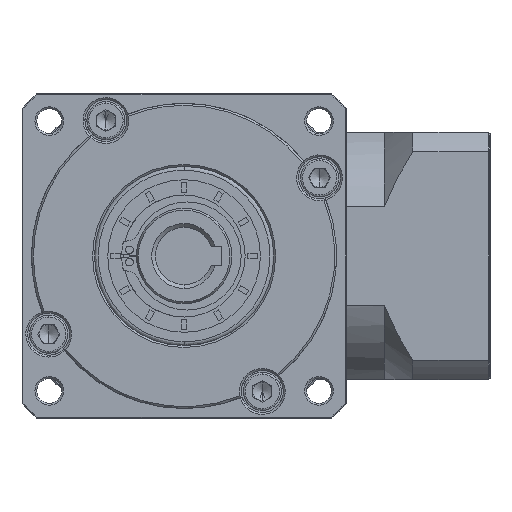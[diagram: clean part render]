
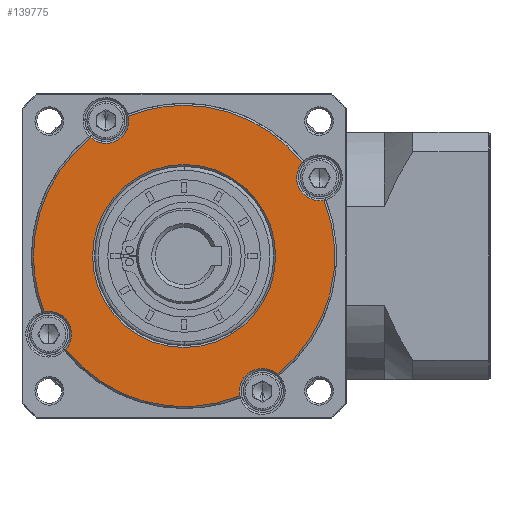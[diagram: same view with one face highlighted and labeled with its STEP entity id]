
A CAD part, left-side view. The second image highlights one B-rep face of the part: STEP entity #139775.
In plain terms, the highlighted planar face has unit normal (-1, 0, 0).
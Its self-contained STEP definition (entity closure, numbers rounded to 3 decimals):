
#591 = AXIS2_PLACEMENT_3D ( 'NONE', #26466, #117792, #39632 ) ;
#3854 = CARTESIAN_POINT ( 'NONE',  ( -117.213, -34.427, -149.592 ) ) ;
#4296 = VERTEX_POINT ( 'NONE', #71923 ) ;
#4793 = CARTESIAN_POINT ( 'NONE',  ( -117.213, -9.957, -118.584 ) ) ;
#5068 = ORIENTED_EDGE ( 'NONE', *, *, #52874, .F. ) ;
#6866 = DIRECTION ( 'NONE',  ( 0., 1., 0. ) ) ;
#7133 = EDGE_CURVE ( 'NONE', #134469, #123421, #17436, .T. ) ;
#8540 = VERTEX_POINT ( 'NONE', #66651 ) ;
#9443 = CARTESIAN_POINT ( 'NONE',  ( -117.213, 14.512, -87.576 ) ) ;
#10791 = DIRECTION ( 'NONE',  ( 1., 0., 0. ) ) ;
#11171 = CIRCLE ( 'NONE', #77204, 24. ) ;
#13105 = CARTESIAN_POINT ( 'NONE',  ( -117.213, -45.464, -98.084 ) ) ;
#17188 = EDGE_LOOP ( 'NONE', ( #5068, #86104, #150924, #57880, #156601, #74011, #28511, #30365, #127586, #75089, #137215, #117496 ) ) ;
#17436 = CIRCLE ( 'NONE', #110412, 39.5 ) ;
#17931 = DIRECTION ( 'NONE',  ( 0., 0., 1. ) ) ;
#19591 = AXIS2_PLACEMENT_3D ( 'NONE', #163270, #85041, #6866 ) ;
#22722 = EDGE_CURVE ( 'NONE', #134469, #155771, #32153, .T. ) ;
#26147 = DIRECTION ( 'NONE',  ( 0., 0., -1. ) ) ;
#26466 = CARTESIAN_POINT ( 'NONE',  ( -117.213, -9.957, -118.584 ) ) ;
#26520 = CIRCLE ( 'NONE', #140951, 6. ) ;
#26860 = CIRCLE ( 'NONE', #36395, 39.5 ) ;
#28511 = ORIENTED_EDGE ( 'NONE', *, *, #65319, .F. ) ;
#28889 = EDGE_CURVE ( 'NONE', #8540, #130323, #11171, .T. ) ;
#28905 = EDGE_CURVE ( 'NONE', #155771, #88898, #80582, .T. ) ;
#30125 = CIRCLE ( 'NONE', #155417, 39.5 ) ;
#30365 = ORIENTED_EDGE ( 'NONE', *, *, #65678, .T. ) ;
#32153 = CIRCLE ( 'NONE', #112228, 6. ) ;
#33256 = VERTEX_POINT ( 'NONE', #163452 ) ;
#36395 = AXIS2_PLACEMENT_3D ( 'NONE', #124261, #46047, #137385 ) ;
#37405 = EDGE_CURVE ( 'NONE', #41304, #88898, #160712, .T. ) ;
#39476 = CARTESIAN_POINT ( 'NONE',  ( -117.213, -9.957, -118.584 ) ) ;
#39632 = DIRECTION ( 'NONE',  ( 0., 0., -1. ) ) ;
#41304 = VERTEX_POINT ( 'NONE', #125038 ) ;
#43097 = CARTESIAN_POINT ( 'NONE',  ( -117.213, 29.543, -118.584 ) ) ;
#46022 = EDGE_CURVE ( 'NONE', #168092, #138603, #30125, .T. ) ;
#46047 = DIRECTION ( 'NONE',  ( 1., 0., 0. ) ) ;
#47246 = DIRECTION ( 'NONE',  ( 1., 0., 0. ) ) ;
#48226 = DIRECTION ( 'NONE',  ( 1., 0., 0. ) ) ;
#48650 = VERTEX_POINT ( 'NONE', #112777 ) ;
#49123 = DIRECTION ( 'NONE',  ( 1., 0., 0. ) ) ;
#52196 = PLANE ( 'NONE',  #591 ) ;
#52593 = DIRECTION ( 'NONE',  ( 0., 0., 1. ) ) ;
#52874 = EDGE_CURVE ( 'NONE', #33256, #41304, #26860, .T. ) ;
#53622 = DIRECTION ( 'NONE',  ( 1., 0., 0. ) ) ;
#54022 = DIRECTION ( 'NONE',  ( 1., 0., 0. ) ) ;
#54686 = CARTESIAN_POINT ( 'NONE',  ( -117.213, -40.965, -94.115 ) ) ;
#54782 = VERTEX_POINT ( 'NONE', #105825 ) ;
#57537 = CARTESIAN_POINT ( 'NONE',  ( -117.213, -9.957, -118.584 ) ) ;
#57880 = ORIENTED_EDGE ( 'NONE', *, *, #46022, .F. ) ;
#58792 = CIRCLE ( 'NONE', #74370, 6. ) ;
#60913 = FACE_OUTER_BOUND ( 'NONE', #17188, .T. ) ;
#64502 = CARTESIAN_POINT ( 'NONE',  ( -117.213, -9.957, -118.584 ) ) ;
#65319 = EDGE_CURVE ( 'NONE', #76666, #54782, #118592, .T. ) ;
#65678 = EDGE_CURVE ( 'NONE', #76666, #123421, #26520, .T. ) ;
#65928 = ORIENTED_EDGE ( 'NONE', *, *, #28889, .T. ) ;
#66651 = CARTESIAN_POINT ( 'NONE',  ( -117.213, 14.043, -118.584 ) ) ;
#67958 = EDGE_CURVE ( 'NONE', #4296, #138603, #139072, .T. ) ;
#69452 = CARTESIAN_POINT ( 'NONE',  ( -117.213, -45.464, -104.084 ) ) ;
#70691 = DIRECTION ( 'NONE',  ( 0., -1., 0. ) ) ;
#71073 = AXIS2_PLACEMENT_3D ( 'NONE', #127297, #49123, #140487 ) ;
#71923 = CARTESIAN_POINT ( 'NONE',  ( -117.213, 10.543, -89.077 ) ) ;
#74011 = ORIENTED_EDGE ( 'NONE', *, *, #90153, .T. ) ;
#74370 = AXIS2_PLACEMENT_3D ( 'NONE', #132158, #54022, #145331 ) ;
#74824 = CARTESIAN_POINT ( 'NONE',  ( -117.213, -24.576, -155.279 ) ) ;
#74941 = CARTESIAN_POINT ( 'NONE',  ( -117.213, -30.457, -154.091 ) ) ;
#75089 = ORIENTED_EDGE ( 'NONE', *, *, #22722, .T. ) ;
#75687 = EDGE_LOOP ( 'NONE', ( #166861, #65928 ) ) ;
#76666 = VERTEX_POINT ( 'NONE', #74824 ) ;
#77204 = AXIS2_PLACEMENT_3D ( 'NONE', #64502, #155827, #77603 ) ;
#77603 = DIRECTION ( 'NONE',  ( 0., -1., 0. ) ) ;
#80582 = CIRCLE ( 'NONE', #94749, 6. ) ;
#83498 = EDGE_CURVE ( 'NONE', #48650, #168092, #126585, .T. ) ;
#85041 = DIRECTION ( 'NONE',  ( 1., 0., 0. ) ) ;
#86104 = ORIENTED_EDGE ( 'NONE', *, *, #98397, .T. ) ;
#88032 = DIRECTION ( 'NONE',  ( 0., 0., -1. ) ) ;
#88898 = VERTEX_POINT ( 'NONE', #54686 ) ;
#88971 = CARTESIAN_POINT ( 'NONE',  ( -117.213, -45.464, -98.084 ) ) ;
#90153 = EDGE_CURVE ( 'NONE', #48650, #54782, #145311, .T. ) ;
#94749 = AXIS2_PLACEMENT_3D ( 'NONE', #13105, #104445, #26147 ) ;
#96120 = DIRECTION ( 'NONE',  ( 1., 0., 0. ) ) ;
#97719 = AXIS2_PLACEMENT_3D ( 'NONE', #126396, #48226, #139591 ) ;
#98397 = EDGE_CURVE ( 'NONE', #33256, #4296, #58792, .T. ) ;
#102087 = DIRECTION ( 'NONE',  ( 0., 0., -1. ) ) ;
#104445 = DIRECTION ( 'NONE',  ( 1., 0., 0. ) ) ;
#105825 = CARTESIAN_POINT ( 'NONE',  ( -117.213, 21.051, -143.054 ) ) ;
#109182 = AXIS2_PLACEMENT_3D ( 'NONE', #4793, #96120, #17931 ) ;
#109482 = EDGE_CURVE ( 'NONE', #130323, #8540, #114619, .T. ) ;
#110412 = AXIS2_PLACEMENT_3D ( 'NONE', #39476, #130762, #52593 ) ;
#112228 = AXIS2_PLACEMENT_3D ( 'NONE', #88971, #10791, #102087 ) ;
#112777 = CARTESIAN_POINT ( 'NONE',  ( -117.213, 26.738, -133.203 ) ) ;
#114619 = CIRCLE ( 'NONE', #148626, 24. ) ;
#115634 = AXIS2_PLACEMENT_3D ( 'NONE', #125433, #47246, #138583 ) ;
#117496 = ORIENTED_EDGE ( 'NONE', *, *, #37405, .F. ) ;
#117792 = DIRECTION ( 'NONE',  ( -1., 0., 0. ) ) ;
#118592 = CIRCLE ( 'NONE', #109182, 39.5 ) ;
#123421 = VERTEX_POINT ( 'NONE', #3854 ) ;
#124261 = CARTESIAN_POINT ( 'NONE',  ( -117.213, -9.957, -118.584 ) ) ;
#125038 = CARTESIAN_POINT ( 'NONE',  ( -117.213, -9.957, -79.084 ) ) ;
#125433 = CARTESIAN_POINT ( 'NONE',  ( -117.213, -9.957, -118.584 ) ) ;
#126396 = CARTESIAN_POINT ( 'NONE',  ( -117.213, 10.543, -83.077 ) ) ;
#126585 = CIRCLE ( 'NONE', #19591, 39.5 ) ;
#127297 = CARTESIAN_POINT ( 'NONE',  ( -117.213, 25.55, -139.084 ) ) ;
#127586 = ORIENTED_EDGE ( 'NONE', *, *, #7133, .F. ) ;
#128529 = FACE_BOUND ( 'NONE', #75687, .T. ) ;
#130323 = VERTEX_POINT ( 'NONE', #148181 ) ;
#130762 = DIRECTION ( 'NONE',  ( 1., 0., 0. ) ) ;
#131773 = CARTESIAN_POINT ( 'NONE',  ( -117.213, -9.957, -118.584 ) ) ;
#132158 = CARTESIAN_POINT ( 'NONE',  ( -117.213, 10.543, -83.077 ) ) ;
#134469 = VERTEX_POINT ( 'NONE', #158608 ) ;
#137215 = ORIENTED_EDGE ( 'NONE', *, *, #28905, .T. ) ;
#137385 = DIRECTION ( 'NONE',  ( 0., 0., 1. ) ) ;
#138583 = DIRECTION ( 'NONE',  ( 0., 0., 1. ) ) ;
#138603 = VERTEX_POINT ( 'NONE', #9443 ) ;
#139072 = CIRCLE ( 'NONE', #97719, 6. ) ;
#139591 = DIRECTION ( 'NONE',  ( 0., 0., -1. ) ) ;
#139775 = ADVANCED_FACE ( 'NONE', ( #60913, #128529 ), #52196, .T. ) ;
#140487 = DIRECTION ( 'NONE',  ( 0., 0., -1. ) ) ;
#140951 = AXIS2_PLACEMENT_3D ( 'NONE', #74941, #166276, #88032 ) ;
#144930 = DIRECTION ( 'NONE',  ( 0., 1., 0. ) ) ;
#145311 = CIRCLE ( 'NONE', #71073, 6. ) ;
#145331 = DIRECTION ( 'NONE',  ( 0., 0., -1. ) ) ;
#148181 = CARTESIAN_POINT ( 'NONE',  ( -117.213, -33.957, -118.584 ) ) ;
#148626 = AXIS2_PLACEMENT_3D ( 'NONE', #57537, #148829, #70691 ) ;
#148829 = DIRECTION ( 'NONE',  ( 1., 0., 0. ) ) ;
#150924 = ORIENTED_EDGE ( 'NONE', *, *, #67958, .T. ) ;
#155417 = AXIS2_PLACEMENT_3D ( 'NONE', #131773, #53622, #144930 ) ;
#155771 = VERTEX_POINT ( 'NONE', #69452 ) ;
#155827 = DIRECTION ( 'NONE',  ( 1., 0., 0. ) ) ;
#156601 = ORIENTED_EDGE ( 'NONE', *, *, #83498, .F. ) ;
#158608 = CARTESIAN_POINT ( 'NONE',  ( -117.213, -46.653, -103.965 ) ) ;
#160712 = CIRCLE ( 'NONE', #115634, 39.5 ) ;
#163270 = CARTESIAN_POINT ( 'NONE',  ( -117.213, -9.957, -118.584 ) ) ;
#163452 = CARTESIAN_POINT ( 'NONE',  ( -117.213, 4.661, -81.889 ) ) ;
#166276 = DIRECTION ( 'NONE',  ( 1., 0., 0. ) ) ;
#166861 = ORIENTED_EDGE ( 'NONE', *, *, #109482, .T. ) ;
#168092 = VERTEX_POINT ( 'NONE', #43097 ) ;
